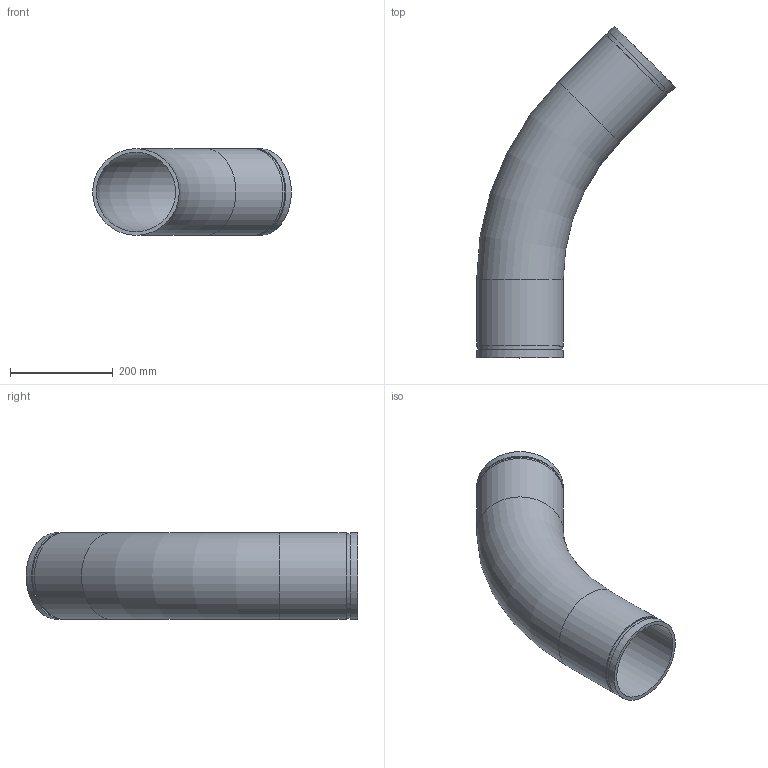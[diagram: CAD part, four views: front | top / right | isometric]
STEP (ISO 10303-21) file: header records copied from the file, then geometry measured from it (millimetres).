
FILE_DESCRIPTION(/* description */ ('VIC ENDSEAL 45 DEG 3D ELBOW No 110-3D','CAx-IF Rec.Pracs.---Representation and Presentation of Product Manufacturing Information (PMI)---4.0---2014-10-13'),/* implementation_level */ '2;1');
FILE_NAME(/* name */ 'C:\Users\kkamble\AppData\Roaming\Autodesk\ApplicationPlugins\Back Up\Victaulic-ES-Long Radius Elbow No 110_3D\Victaulic-ES-Long Radius Elbow No 110_3D_6 (150).stp',/* time_stamp */ '2020-03-13T11:17:09+06:00',/* author */ ('cgray'),/* organization */ ('Victaulic'),/* preprocessor_version */ 'ST-DEVELOPER v17.2',/* originating_system */ 'Autodesk Inventor 2019',/* authorisation */ '');
FILE_SCHEMA (('AP242_MANAGED_MODEL_BASED_3D_ENGINEERING_MIM_LF { 1 0 10303 442 1 1 4 }'));
Length unit declared in the file: inch
Products named in the file (1): No.110-3D-06.0
Bounding box: 386.1 x 644.86 x 168.28 mm (x, y, z)
Volume: 2380757.8 mm3; surface area: 685912.1 mm2
Topology: 1 solids, 1 shells, 16 faces, 34 edges, 24 vertices
Faces by surface type: cylinder 8, plane 6, torus 2
Full cylindrical faces by diameter (mm): 154.051 x2, 163.957 x2, 168.275 x4
Entity records: 608 total; most frequent: DIRECTION 120, CARTESIAN_POINT 92, ORIENTED_EDGE 68, AXIS2_PLACEMENT_3D 56, EDGE_CURVE 34, CIRCLE 26, VERTEX_POINT 24, EDGE_LOOP 22
